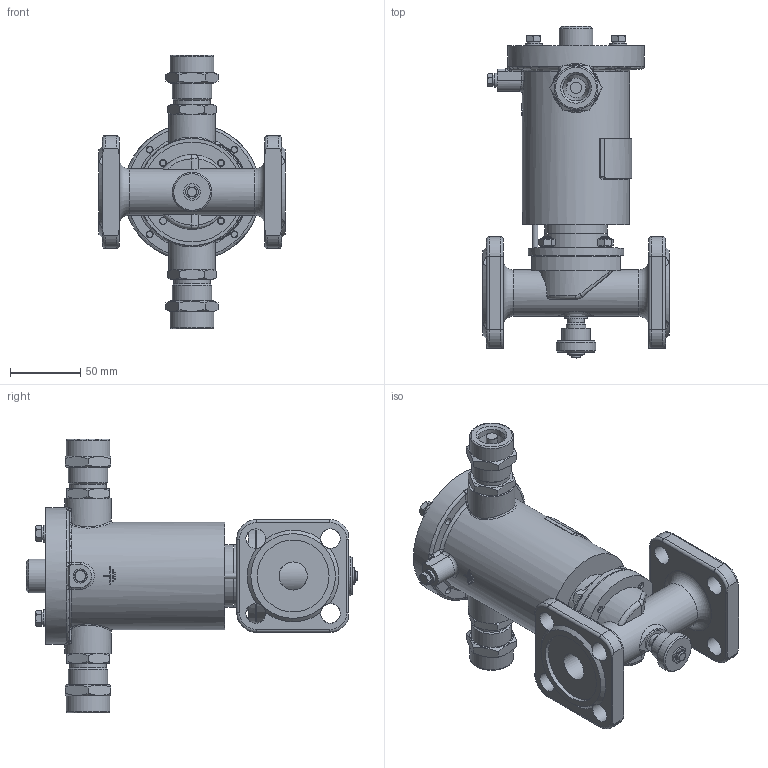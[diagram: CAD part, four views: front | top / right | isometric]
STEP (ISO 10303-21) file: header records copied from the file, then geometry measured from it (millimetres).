
FILE_DESCRIPTION(('STEP AP203'), '1');
FILE_NAME('ÑÅÍÑ DN20PN25-ÑÂ.stp', '2018-09-19T08:35:05', ('Îðëîâ Å.Â.'), ('ÎÎÎ ÍÏÏ Ñåíñîð'), 'ASCON STEP Converter 1.3', 'Kompas 3D', '');
FILE_SCHEMA(('CONFIG_CONTROL_DESIGN','SUPPORT_RESOURCE_SCHEMA'));
Length unit declared in the file: millimetre
Products named in the file (1): 13
Bounding box: 132 x 235.5 x 194 mm (x, y, z)
Volume: 637377.8 mm3; surface area: 206316.4 mm2
Topology: 3 solids, 18 shells, 1950 faces, 5185 edges, 3375 vertices
Faces by surface type: cylinder 1009, plane 723, cone 127, torus 40, bspline 35, extrusion 16
Full cylindrical faces by diameter (mm): 2.459 x4, 4 x8, 4.134 x1, 4.5 x2, 4.917 x5, 5 x6, 5.1 x1, 6 x14, 6.3 x2, 6.4 x1, 6.5 x11, 8 x6, 10 x3, 11.5 x1, 12 x5, 12.376 x1, 13 x2, 14 x9, 15 x1, 16 x1, 18.632 x2, 20 x6, 20.5 x1, 22 x2, 22.376 x2, 22.5 x1, 23.5 x3, 24 x3, 24.5 x3, 25 x2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
Entity records: 76238 total; most frequent: CARTESIAN_POINT 26425, DIRECTION 10825, ORIENTED_EDGE 10346, EDGE_CURVE 5173, AXIS2_PLACEMENT_3D 4172, VERTEX_POINT 3375, VECTOR 2481, LINE 2465
